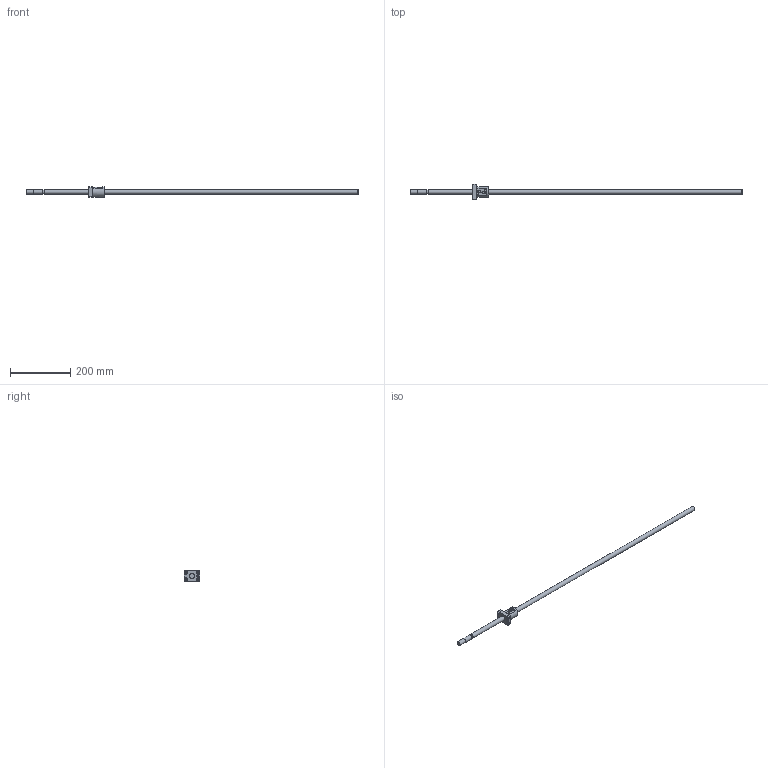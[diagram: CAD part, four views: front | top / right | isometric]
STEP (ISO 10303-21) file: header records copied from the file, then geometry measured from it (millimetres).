
FILE_DESCRIPTION (( 'STEP AP214' ), '1' );
FILE_NAME ('KBS(C)1515-1100.STEP', '2021-07-05T02:15:48', ( '' ), ( '' ), 'SwSTEP 2.0', 'SolidWorks 2019', '' );
FILE_SCHEMA (( 'AUTOMOTIVE_DESIGN' ));
Length unit declared in the file: millimetre
Products named in the file (3): KBS1515; KBS1515-1100; KBS(C)1515-1100
Assembly tree (2 placements, depth 2):
  KBS(C)1515-1100
    KBS1515-1100
    KBS1515
Bounding box: 1100 x 50 x 34 mm (x, y, z)
Volume: 237256.1 mm3; surface area: 65899.8 mm2
Topology: 2 solids, 2 shells, 103 faces, 259 edges, 171 vertices
Faces by surface type: plane 55, cylinder 40, cone 4, torus 4
Full cylindrical faces by diameter (mm): 3.2 x1, 5 x1, 5.5 x4, 5.6 x2, 9.5 x4, 12.5 x1, 14.5 x1, 15 x3, 17 x2, 34 x1
Entity records: 3297 total; most frequent: CARTESIAN_POINT 862, DIRECTION 464, ORIENTED_EDGE 448, EDGE_CURVE 224, AXIS2_PLACEMENT_3D 176, VERTEX_POINT 164, EDGE_LOOP 158, FACE_OUTER_BOUND 127
